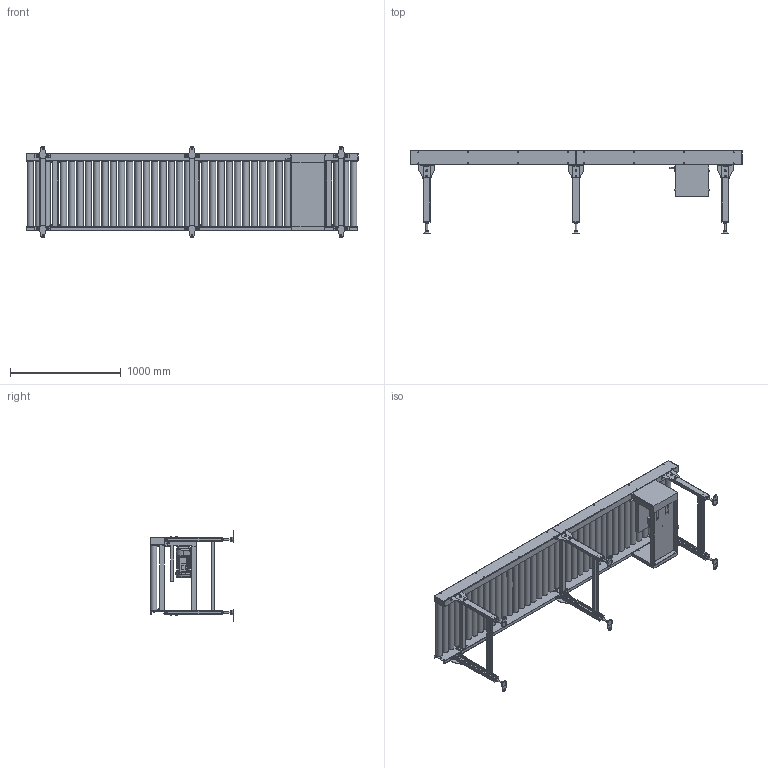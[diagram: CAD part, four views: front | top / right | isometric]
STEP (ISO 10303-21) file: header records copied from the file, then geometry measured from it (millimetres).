
FILE_DESCRIPTION( (''), '2;1');
FILE_NAME ('WEB-FCC2H-57-3-040-630-75-300-L-20S.stp','2026-03-19T10:11:04',(''),(''),'spGate 20.6.2 (****-****-****-****)','','');
FILE_SCHEMA (('AUTOMOTIVE_DESIGN'));
Length unit declared in the file: millimetre
Products named in the file (123): WEB-FCC2H-57-3-040-630-75-300-L-20S; TEMP_X_T-prt0; TEMP_X_T-prt1; TEMP_X_T-prt2; TEMP_X_T-prt3; TEMP_X_T-prt4; TEMP_X_T-prt5; TEMP_X_T-prt6; TEMP_X_T-prt7; TEMP_X_T-prt8; TEMP_X_T-prt9; TEMP_X_T-prt10; TEMP_X_T-prt11; TEMP_X_T-prt12; TEMP_X_T-prt13; TEMP_X_T-prt14; TEMP_X_T-prt15; TEMP_X_T-prt16; TEMP_X_T-prt17; TEMP_X_T-prt18; TEMP_X_T-prt19; TEMP_X_T-prt20; TEMP_X_T-prt21; TEMP_X_T-prt22; TEMP_X_T-prt23; TEMP_X_T-prt24; TEMP_X_T-prt25; TEMP_X_T-prt26; TEMP_X_T-prt27; TEMP_X_T-prt28; TEMP_X_T-prt29; TEMP_X_T-prt30; TEMP_X_T-prt31; TEMP_X_T-prt32; TEMP_X_T-prt33; TEMP_X_T-prt34; TEMP_X_T-prt35; TEMP_X_T-prt36; TEMP_X_T-prt37; TEMP_X_T-prt38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
Assembly tree (122 placements, depth 2):
  WEB-FCC2H-57-3-040-630-75-300-L-20S
    TEMP_X_T-prt0
    TEMP_X_T-prt1
    TEMP_X_T-prt2
    TEMP_X_T-prt3
    TEMP_X_T-prt4
    TEMP_X_T-prt5
    TEMP_X_T-prt6
    TEMP_X_T-prt7
    TEMP_X_T-prt8
    TEMP_X_T-prt9
    TEMP_X_T-prt10
    TEMP_X_T-prt11
    TEMP_X_T-prt12
    TEMP_X_T-prt13
    TEMP_X_T-prt14
    TEMP_X_T-prt15
    TEMP_X_T-prt16
    TEMP_X_T-prt17
    TEMP_X_T-prt18
    TEMP_X_T-prt19
    TEMP_X_T-prt20
    TEMP_X_T-prt21
    TEMP_X_T-prt22
    TEMP_X_T-prt23
    TEMP_X_T-prt24
    TEMP_X_T-prt25
    TEMP_X_T-prt26
    TEMP_X_T-prt27
    TEMP_X_T-prt28
    TEMP_X_T-prt29
    TEMP_X_T-prt30
    TEMP_X_T-prt31
    TEMP_X_T-prt32
    TEMP_X_T-prt33
    TEMP_X_T-prt34
    TEMP_X_T-prt35
    TEMP_X_T-prt36
    TEMP_X_T-prt37
    TEMP_X_T-prt38
    TEMP_X_T-prt39
    TEMP_X_T-prt40
    TEMP_X_T-prt41
    TEMP_X_T-prt42
    TEMP_X_T-prt43
    TEMP_X_T-prt44
    TEMP_X_T-prt45
    TEMP_X_T-prt46
    TEMP_X_T-prt47
    TEMP_X_T-prt48
    TEMP_X_T-prt49
    TEMP_X_T-prt50
    TEMP_X_T-prt51
    TEMP_X_T-prt52
    TEMP_X_T-prt53
    TEMP_X_T-prt54
    TEMP_X_T-prt55
    TEMP_X_T-prt56
    TEMP_X_T-prt57
    TEMP_X_T-prt58
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Bounding box: 3002.4 x 750 x 824 mm (x, y, z)
Volume: 103314982.3 mm3; surface area: 11305907.7 mm2
Topology: 122 solids, 122 shells, 3669 faces, 9266 edges, 6148 vertices
Faces by surface type: plane 2670, cylinder 892, bspline 83, sphere 24
Full cylindrical faces by diameter (mm): 4 x8, 5 x24, 6 x1, 8 x12, 8.5 x16, 9 x12, 9.2 x4, 9.4 x24, 10 x58, 10.5 x14, 11 x28, 12 x48, 13 x14, 15 x1, 15.4 x6, 16 x12, 17 x52, 18 x6, 21 x14, 24 x1, 25 x4, 28 x1, 30 x2, 47 x40, 56 x1, 57 x40, 113.2 x1, 125 x1
Entity records: 191692 total; most frequent: CARTESIAN_POINT 23890, DIRECTION 18967, ORIENTED_EDGE 18530, COLOUR_RGB 13056, PRESENTATION_STYLE_ASSIGNMENT 13056, STYLED_ITEM 13056, EDGE_CURVE 9265, DRAUGHTING_PRE_DEFINED_CURVE_FONT 9265
